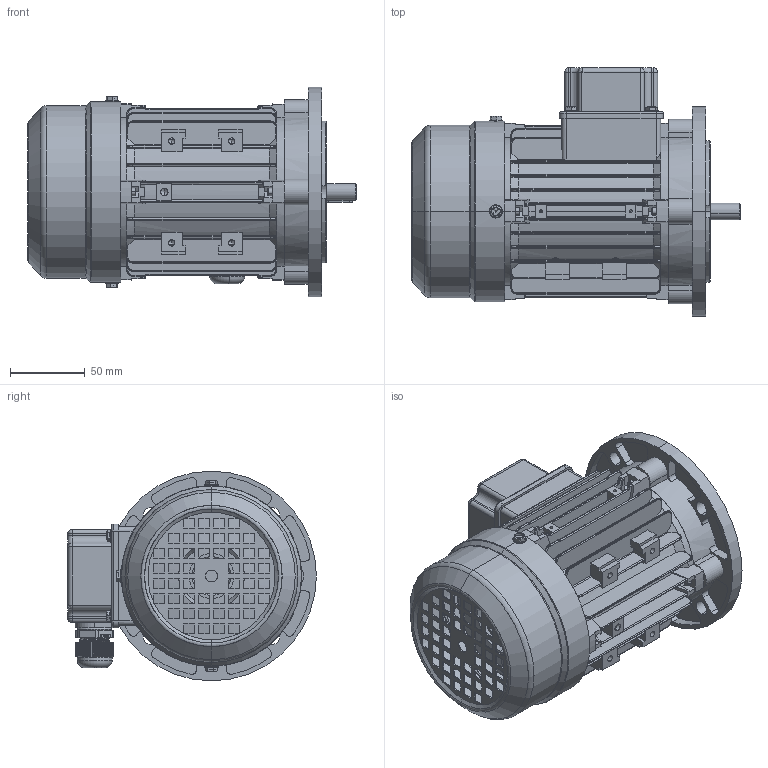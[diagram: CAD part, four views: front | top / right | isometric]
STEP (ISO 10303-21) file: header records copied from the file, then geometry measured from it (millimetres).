
FILE_DESCRIPTION (( 'STEP AP203' ), '1' );
FILE_NAME ('MSL63 assembly B5.STEP', '2017-11-26T09:34:52', ( 'user' ), ( 'china' ), 'SwSTEP 2.0', 'SolidWorks 2016', '' );
FILE_SCHEMA (( 'CONFIG_CONTROL_DESIGN' ));
Length unit declared in the file: millimetre
Products named in the file (13): MSL63-71堤盄碟; M63-Shaft drive end_S; GB-T 5780-2000 M5_020; MS63 綴裔瑞欶郪磁; GB-T 70.1-2000 M5_20; MSL63 assembly B5; M20 cable gland; GB-T 29.2-1988 M4鞠褒坋趼湍菜_05; M63傷裔B3_Post; MSL63-儂褲; M63傷裔B5; M63瑞欶; MSL63-71堤盄碟蚾饜
Assembly tree (24 placements, depth 3):
  MSL63 assembly B5
    MSL63-儂褲
    MS63 綴裔瑞欶郪磁
      M63傷裔B3_Post
      M63瑞欶
      GB-T 29.2-1988 M4鞠褒坋趼湍菜_05  x3
    MSL63-71堤盄碟蚾饜
      MSL63-71堤盄碟
      GB-T 29.2-1988 M4鞠褒坋趼湍菜_05  x4
      M20 cable gland
    M63-Shaft drive end_S
    GB-T 70.1-2000 M5_20  x4
    GB-T 5780-2000 M5_020  x4
    M63傷裔B5
Bounding box: 219 x 166 x 140 mm (x, y, z)
Volume: 400769.2 mm3; surface area: 331570.9 mm2
Topology: 22 solids, 22 shells, 2963 faces, 7720 edges, 4815 vertices
Faces by surface type: plane 1263, cylinder 1129, cone 210, bspline 204, torus 157
Entity records: 100727 total; most frequent: CARTESIAN_POINT 36669, ORIENTED_EDGE 13620, DIRECTION 12547, EDGE_CURVE 6810, AXIS2_PLACEMENT_3D 4565, VERTEX_POINT 4338, LINE 3417, VECTOR 3417
